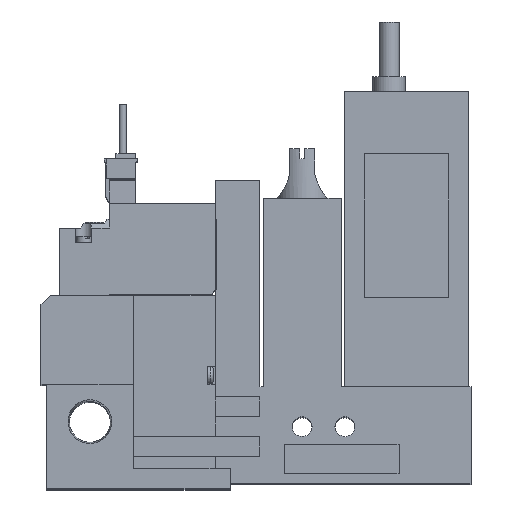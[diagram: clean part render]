
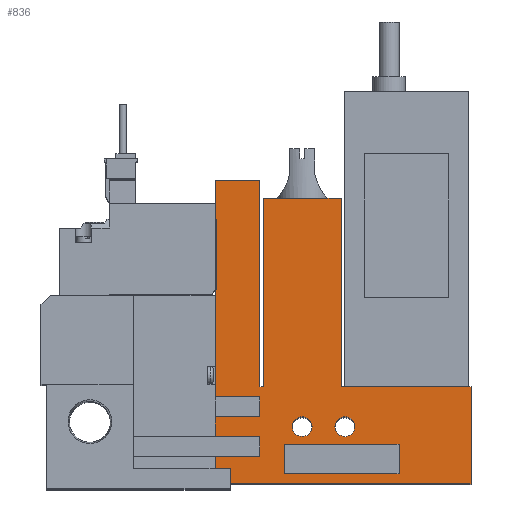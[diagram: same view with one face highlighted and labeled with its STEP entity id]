
A CAD part, top view. The second image highlights one B-rep face of the part: STEP entity #836.
In plain terms, the highlighted planar face has unit normal (0, 0, 1).
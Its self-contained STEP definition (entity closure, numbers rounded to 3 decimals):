
#836=ADVANCED_FACE('',(#1665,#1666,#1667,#1668),#1669,.T.);
#1665=FACE_OUTER_BOUND('',#2810,.T.);
#1666=FACE_BOUND('',#2811,.T.);
#1667=FACE_BOUND('',#2812,.T.);
#1668=FACE_BOUND('',#2813,.T.);
#1669=PLANE('',#2814);
#2810=EDGE_LOOP('',(#5703,#5704,#5705,#5706,#5707,#5708,#5709,#5710,#5711,#5712,#5713,#5714,#5715,#5716,#5717,#5718,#5719,#5720));
#2811=EDGE_LOOP('',(#5721,#5722,#5723,#5724));
#2812=EDGE_LOOP('',(#5725));
#2813=EDGE_LOOP('',(#5726));
#2814=AXIS2_PLACEMENT_3D('',#5727,#5728,#5729);
#5703=ORIENTED_EDGE('',*,*,#7702,.T.);
#5704=ORIENTED_EDGE('',*,*,#7824,.T.);
#5705=ORIENTED_EDGE('',*,*,#7825,.T.);
#5706=ORIENTED_EDGE('',*,*,#7826,.T.);
#5707=ORIENTED_EDGE('',*,*,#7827,.T.);
#5708=ORIENTED_EDGE('',*,*,#7828,.T.);
#5709=ORIENTED_EDGE('',*,*,#7751,.T.);
#5710=ORIENTED_EDGE('',*,*,#7716,.T.);
#5711=ORIENTED_EDGE('',*,*,#7820,.T.);
#5712=ORIENTED_EDGE('',*,*,#7739,.T.);
#5713=ORIENTED_EDGE('',*,*,#7829,.T.);
#5714=ORIENTED_EDGE('',*,*,#7830,.T.);
#5715=ORIENTED_EDGE('',*,*,#7831,.T.);
#5716=ORIENTED_EDGE('',*,*,#7832,.T.);
#5717=ORIENTED_EDGE('',*,*,#7814,.T.);
#5718=ORIENTED_EDGE('',*,*,#7833,.T.);
#5719=ORIENTED_EDGE('',*,*,#7784,.T.);
#5720=ORIENTED_EDGE('',*,*,#7680,.T.);
#5721=ORIENTED_EDGE('',*,*,#7834,.T.);
#5722=ORIENTED_EDGE('',*,*,#7706,.T.);
#5723=ORIENTED_EDGE('',*,*,#7746,.T.);
#5724=ORIENTED_EDGE('',*,*,#7782,.T.);
#5725=ORIENTED_EDGE('',*,*,#7735,.T.);
#5726=ORIENTED_EDGE('',*,*,#7835,.T.);
#5727=CARTESIAN_POINT('',(0.0,0.0,10.0));
#5728=DIRECTION('',(0.0,0.0,1.0));
#5729=DIRECTION('',(1.0,0.0,0.0));
#7680=EDGE_CURVE('',#9267,#9265,#9268,.T.);
#7702=EDGE_CURVE('',#9265,#9308,#9310,.T.);
#7706=EDGE_CURVE('',#9311,#9316,#9318,.T.);
#7716=EDGE_CURVE('',#9337,#9335,#9338,.T.);
#7735=EDGE_CURVE('',#9372,#9372,#9373,.T.);
#7739=EDGE_CURVE('',#9381,#9379,#9382,.T.);
#7746=EDGE_CURVE('',#9316,#9392,#9394,.T.);
#7751=EDGE_CURVE('',#9400,#9337,#9402,.T.);
#7782=EDGE_CURVE('',#9392,#9454,#9456,.T.);
#7784=EDGE_CURVE('',#9459,#9267,#9460,.T.);
#7814=EDGE_CURVE('',#9507,#9505,#9508,.T.);
#7820=EDGE_CURVE('',#9335,#9381,#9516,.T.);
#7824=EDGE_CURVE('',#9308,#9521,#9522,.T.);
#7825=EDGE_CURVE('',#9521,#9523,#9524,.T.);
#7826=EDGE_CURVE('',#9523,#9525,#9526,.T.);
#7827=EDGE_CURVE('',#9525,#9527,#9528,.T.);
#7828=EDGE_CURVE('',#9527,#9400,#9529,.T.);
#7829=EDGE_CURVE('',#9379,#9530,#9531,.T.);
#7830=EDGE_CURVE('',#9530,#9532,#9533,.T.);
#7831=EDGE_CURVE('',#9532,#9534,#9535,.T.);
#7832=EDGE_CURVE('',#9534,#9507,#9536,.T.);
#7833=EDGE_CURVE('',#9505,#9459,#9537,.T.);
#7834=EDGE_CURVE('',#9454,#9311,#9538,.T.);
#7835=EDGE_CURVE('',#9539,#9539,#9540,.T.);
#9265=VERTEX_POINT('',#11815);
#9267=VERTEX_POINT('',#11818);
#9268=LINE('',#11819,#11820);
#9308=VERTEX_POINT('',#11878);
#9310=LINE('',#11881,#11882);
#9311=VERTEX_POINT('',#11883);
#9316=VERTEX_POINT('',#11890);
#9318=LINE('',#11893,#11894);
#9335=VERTEX_POINT('',#11917);
#9337=VERTEX_POINT('',#11920);
#9338=LINE('',#11921,#11922);
#9372=VERTEX_POINT('',#11970);
#9373=CIRCLE('',#11971,2.0);
#9379=VERTEX_POINT('',#11979);
#9381=VERTEX_POINT('',#11982);
#9382=LINE('',#11983,#11984);
#9392=VERTEX_POINT('',#11999);
#9394=LINE('',#12002,#12003);
#9400=VERTEX_POINT('',#12012);
#9402=LINE('',#12015,#12016);
#9454=VERTEX_POINT('',#12115);
#9456=LINE('',#12118,#12119);
#9459=VERTEX_POINT('',#12123);
#9460=LINE('',#12124,#12125);
#9505=VERTEX_POINT('',#12194);
#9507=VERTEX_POINT('',#12197);
#9508=LINE('',#12198,#12199);
#9516=LINE('',#12212,#12213);
#9521=VERTEX_POINT('',#12221);
#9522=LINE('',#12222,#12223);
#9523=VERTEX_POINT('',#12224);
#9524=LINE('',#12225,#12226);
#9525=VERTEX_POINT('',#12227);
#9526=LINE('',#12228,#12229);
#9527=VERTEX_POINT('',#12230);
#9528=LINE('',#12231,#12232);
#9529=LINE('',#12233,#12234);
#9530=VERTEX_POINT('',#12235);
#9531=LINE('',#12236,#12237);
#9532=VERTEX_POINT('',#12238);
#9533=LINE('',#12239,#12240);
#9534=VERTEX_POINT('',#12241);
#9535=LINE('',#12242,#12243);
#9536=LINE('',#12244,#12245);
#9537=LINE('',#12246,#12247);
#9538=LINE('',#12248,#12249);
#9539=VERTEX_POINT('',#12250);
#9540=CIRCLE('',#12251,2.0);
#11815=CARTESIAN_POINT('',(35.1,61.0,10.0));
#11818=CARTESIAN_POINT('',(44.1,61.0,10.0));
#11819=CARTESIAN_POINT('',(44.1,61.0,10.0));
#11820=VECTOR('',#14077,1.0);
#11878=CARTESIAN_POINT('',(35.1,17.5,10.0));
#11881=CARTESIAN_POINT('',(35.1,61.0,10.0));
#11882=VECTOR('',#14103,1.0);
#11883=CARTESIAN_POINT('',(49.1,8.0,10.0));
#11890=CARTESIAN_POINT('',(72.1,8.0,10.0));
#11893=CARTESIAN_POINT('',(0.0,8.0,10.0));
#11894=VECTOR('',#14107,1.0);
#11917=CARTESIAN_POINT('',(35.1,5.5,10.0));
#11920=CARTESIAN_POINT('',(44.1,5.5,10.0));
#11921=CARTESIAN_POINT('',(0.0,5.5,10.0));
#11922=VECTOR('',#14121,1.0);
#11970=CARTESIAN_POINT('',(54.6,11.5,10.0));
#11971=AXIS2_PLACEMENT_3D('',#14148,#14149,#14150);
#11979=CARTESIAN_POINT('',(86.6,0.0,10.0));
#11982=CARTESIAN_POINT('',(35.1,0.0,10.0));
#11983=CARTESIAN_POINT('',(18.6,0.0,10.0));
#11984=VECTOR('',#14154,1.0);
#11999=CARTESIAN_POINT('',(72.1,2.0,10.0));
#12002=CARTESIAN_POINT('',(72.1,0.0,10.0));
#12003=VECTOR('',#14161,1.0);
#12012=CARTESIAN_POINT('',(44.1,9.5,10.0));
#12015=CARTESIAN_POINT('',(44.1,0.0,10.0));
#12016=VECTOR('',#14166,1.0);
#12115=CARTESIAN_POINT('',(49.1,2.0,10.0));
#12118=CARTESIAN_POINT('',(0.0,2.0,10.0));
#12119=VECTOR('',#14204,1.0);
#12123=CARTESIAN_POINT('',(44.1,19.5,10.0));
#12124=CARTESIAN_POINT('',(44.1,19.5,10.0));
#12125=VECTOR('',#14206,1.0);
#12194=CARTESIAN_POINT('',(44.75,19.5,10.0));
#12197=CARTESIAN_POINT('',(44.75,57.5,10.0));
#12198=CARTESIAN_POINT('',(44.75,57.5,10.0));
#12199=VECTOR('',#14241,1.0);
#12212=CARTESIAN_POINT('',(35.1,0.0,10.0));
#12213=VECTOR('',#14247,1.0);
#12221=CARTESIAN_POINT('',(44.1,17.5,10.0));
#12222=CARTESIAN_POINT('',(0.0,17.5,10.0));
#12223=VECTOR('',#14251,1.0);
#12224=CARTESIAN_POINT('',(44.1,13.5,10.0));
#12225=CARTESIAN_POINT('',(44.1,0.0,10.0));
#12226=VECTOR('',#14252,1.0);
#12227=CARTESIAN_POINT('',(35.1,13.5,10.0));
#12228=CARTESIAN_POINT('',(0.0,13.5,10.0));
#12229=VECTOR('',#14253,1.0);
#12230=CARTESIAN_POINT('',(35.1,9.5,10.0));
#12231=CARTESIAN_POINT('',(35.1,0.0,10.0));
#12232=VECTOR('',#14254,1.0);
#12233=CARTESIAN_POINT('',(0.0,9.5,10.0));
#12234=VECTOR('',#14255,1.0);
#12235=CARTESIAN_POINT('',(86.6,19.5,10.0));
#12236=CARTESIAN_POINT('',(86.6,0.0,10.0));
#12237=VECTOR('',#14256,1.0);
#12238=CARTESIAN_POINT('',(60.45,19.5,10.0));
#12239=CARTESIAN_POINT('',(86.6,19.5,10.0));
#12240=VECTOR('',#14257,1.0);
#12241=CARTESIAN_POINT('',(60.45,57.5,10.0));
#12242=CARTESIAN_POINT('',(60.45,19.5,10.0));
#12243=VECTOR('',#14258,1.0);
#12244=CARTESIAN_POINT('',(60.45,57.5,10.0));
#12245=VECTOR('',#14259,1.0);
#12246=CARTESIAN_POINT('',(44.75,19.5,10.0));
#12247=VECTOR('',#14260,1.0);
#12248=CARTESIAN_POINT('',(49.1,0.0,10.0));
#12249=VECTOR('',#14261,1.0);
#12250=CARTESIAN_POINT('',(63.2,11.5,10.0));
#12251=AXIS2_PLACEMENT_3D('',#14262,#14263,#14264);
#14077=DIRECTION('',(-1.0,0.0,0.0));
#14103=DIRECTION('',(0.0,-1.0,0.0));
#14107=DIRECTION('',(1.0,0.0,0.0));
#14121=DIRECTION('',(-1.0,0.0,0.0));
#14148=CARTESIAN_POINT('',(52.6,11.5,10.0));
#14149=DIRECTION('',(0.0,0.0,-1.0));
#14150=DIRECTION('',(1.0,0.0,0.0));
#14154=DIRECTION('',(1.0,0.0,0.0));
#14161=DIRECTION('',(0.0,-1.0,0.0));
#14166=DIRECTION('',(0.0,-1.0,0.0));
#14204=DIRECTION('',(-1.0,0.0,0.0));
#14206=DIRECTION('',(0.0,1.0,0.0));
#14241=DIRECTION('',(0.0,-1.0,0.0));
#14247=DIRECTION('',(0.0,-1.0,0.0));
#14251=DIRECTION('',(1.0,0.0,0.0));
#14252=DIRECTION('',(0.0,-1.0,0.0));
#14253=DIRECTION('',(-1.0,0.0,0.0));
#14254=DIRECTION('',(0.0,-1.0,0.0));
#14255=DIRECTION('',(1.0,0.0,0.0));
#14256=DIRECTION('',(0.0,1.0,0.0));
#14257=DIRECTION('',(-1.0,0.0,0.0));
#14258=DIRECTION('',(0.0,1.0,0.0));
#14259=DIRECTION('',(-1.0,0.0,0.0));
#14260=DIRECTION('',(-1.0,0.0,0.0));
#14261=DIRECTION('',(0.0,1.0,0.0));
#14262=CARTESIAN_POINT('',(61.2,11.5,10.0));
#14263=DIRECTION('',(0.0,0.0,-1.0));
#14264=DIRECTION('',(1.0,0.0,0.0));
